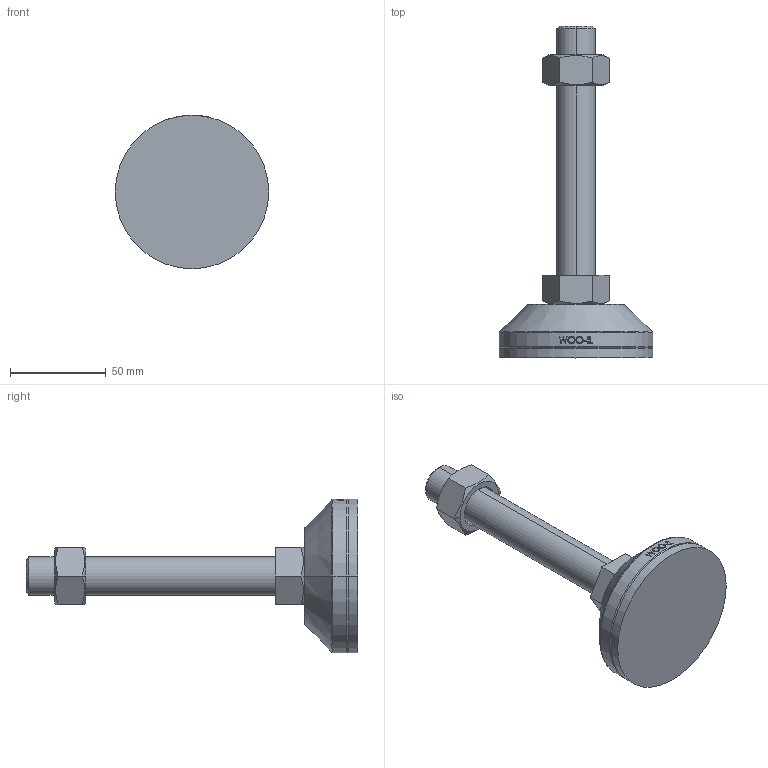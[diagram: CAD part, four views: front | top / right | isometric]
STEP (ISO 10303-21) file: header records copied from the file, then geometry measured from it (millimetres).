
FILE_DESCRIPTION (( 'STEP AP214' ), '1' );
FILE_NAME ('NHNR80-M20-130.step', '2021-01-25T06:22:24', ( '' ), ( '' ), 'SwSTEP 2.0', 'SolidWorks 2019', '' );
FILE_SCHEMA (( 'AUTOMOTIVE_DESIGN' ));
Length unit declared in the file: millimetre
Products named in the file (2): NHNR80-M20-130
Bounding box: 80 x 173 x 80 mm (x, y, z)
Volume: 175719.6 mm3; surface area: 39433 mm2
Topology: 4 solids, 4 shells, 105 faces, 239 edges, 152 vertices
Faces by surface type: plane 49, cylinder 18, bspline 16, cone 14, torus 8
Entity records: 4375 total; most frequent: CARTESIAN_POINT 2058, ORIENTED_EDGE 478, DIRECTION 429, EDGE_CURVE 239, AXIS2_PLACEMENT_3D 165, VERTEX_POINT 152, EDGE_LOOP 117, FACE_OUTER_BOUND 105
